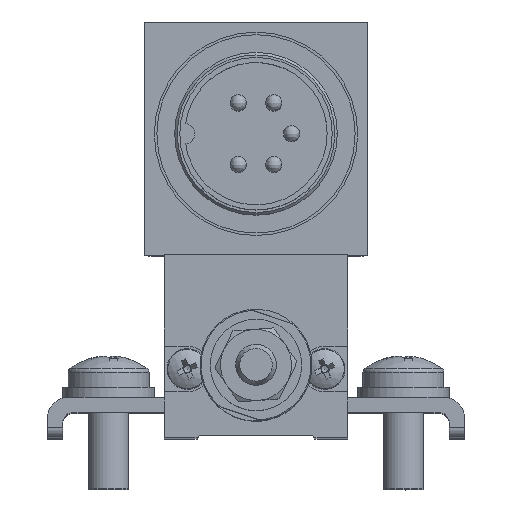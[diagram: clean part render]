
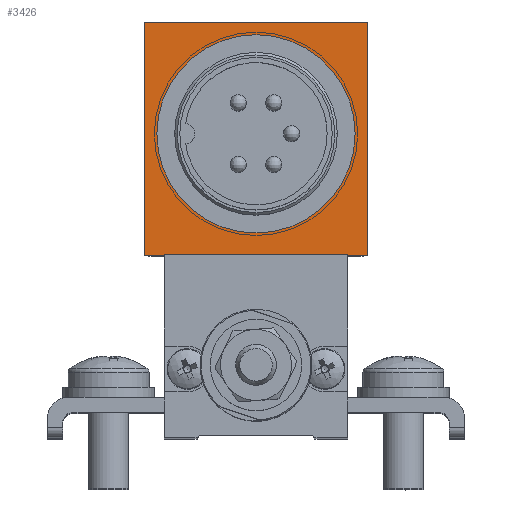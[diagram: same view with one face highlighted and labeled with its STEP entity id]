
A CAD part, top view. The second image highlights one B-rep face of the part: STEP entity #3426.
In plain terms, the highlighted planar face has unit normal (0, 0, 1) as drawn and (0, 0, -1) by its records, which use the part's own axes.
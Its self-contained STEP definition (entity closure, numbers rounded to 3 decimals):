
#34 = ORIENTED_EDGE ( 'NONE', *, *, #6945, .F. ) ;
#116 = CARTESIAN_POINT ( 'NONE',  ( -10.945, 9., -23. ) ) ;
#135 = PLANE ( 'NONE',  #9263 ) ;
#456 = EDGE_CURVE ( 'NONE', #878, #3160, #5418, .T. ) ;
#465 = CARTESIAN_POINT ( 'NONE',  ( 10.945, 9., -23. ) ) ;
#712 = VERTEX_POINT ( 'NONE', #465 ) ;
#869 = VERTEX_POINT ( 'NONE', #3879 ) ;
#878 = VERTEX_POINT ( 'NONE', #116 ) ;
#899 = AXIS2_PLACEMENT_3D ( 'NONE', #1284, #5043, #4297 ) ;
#1122 = ORIENTED_EDGE ( 'NONE', *, *, #456, .T. ) ;
#1284 = CARTESIAN_POINT ( 'NONE',  ( 0., 21., -23. ) ) ;
#1509 = EDGE_CURVE ( 'NONE', #712, #878, #7120, .T. ) ;
#1592 = VECTOR ( 'NONE', #6434, 1000. ) ;
#2122 = FACE_BOUND ( 'NONE', #3589, .T. ) ;
#2514 = VECTOR ( 'NONE', #4706, 1000. ) ;
#2734 = EDGE_CURVE ( 'NONE', #4324, #712, #9285, .T. ) ;
#2866 = CARTESIAN_POINT ( 'NONE',  ( -11., 32., -23. ) ) ;
#3160 = VERTEX_POINT ( 'NONE', #2866 ) ;
#3212 = ORIENTED_EDGE ( 'NONE', *, *, #10076, .F. ) ;
#3342 = VECTOR ( 'NONE', #4967, 1000. ) ;
#3426 = ADVANCED_FACE ( 'NONE', ( #2122, #9507 ), #135, .F. ) ;
#3589 = EDGE_LOOP ( 'NONE', ( #3212 ) ) ;
#3879 = CARTESIAN_POINT ( 'NONE',  ( -9.75, 21., -23. ) ) ;
#4297 = DIRECTION ( 'NONE',  ( -1., 0., 0. ) ) ;
#4324 = VERTEX_POINT ( 'NONE', #7446 ) ;
#4631 = ORIENTED_EDGE ( 'NONE', *, *, #2734, .T. ) ;
#4706 = DIRECTION ( 'NONE',  ( -1., 0., 0. ) ) ;
#4720 = LINE ( 'NONE', #8694, #2514 ) ;
#4967 = DIRECTION ( 'NONE',  ( -0.002, 1., 0. ) ) ;
#5042 = CIRCLE ( 'NONE', #899, 9.75 ) ;
#5043 = DIRECTION ( 'NONE',  ( 0., 0., -1. ) ) ;
#5418 = LINE ( 'NONE', #7282, #3342 ) ;
#5661 = DIRECTION ( 'NONE',  ( -0.002, -1., 0. ) ) ;
#6300 = VECTOR ( 'NONE', #5661, 1000. ) ;
#6434 = DIRECTION ( 'NONE',  ( -1., 0., 0. ) ) ;
#6671 = ORIENTED_EDGE ( 'NONE', *, *, #1509, .T. ) ;
#6711 = EDGE_LOOP ( 'NONE', ( #6671, #1122, #34, #4631 ) ) ;
#6945 = EDGE_CURVE ( 'NONE', #4324, #3160, #4720, .T. ) ;
#7120 = LINE ( 'NONE', #9652, #1592 ) ;
#7226 = DIRECTION ( 'NONE',  ( 0., 0., 1. ) ) ;
#7282 = CARTESIAN_POINT ( 'NONE',  ( -10.945, 8.947, -23. ) ) ;
#7446 = CARTESIAN_POINT ( 'NONE',  ( 11., 32., -23. ) ) ;
#7942 = CARTESIAN_POINT ( 'NONE',  ( 10.945, 9., -23. ) ) ;
#8694 = CARTESIAN_POINT ( 'NONE',  ( 11., 32., -23. ) ) ;
#8810 = CARTESIAN_POINT ( 'NONE',  ( 11., 9., -23. ) ) ;
#9263 = AXIS2_PLACEMENT_3D ( 'NONE', #8810, #7226, #9548 ) ;
#9285 = LINE ( 'NONE', #7942, #6300 ) ;
#9507 = FACE_OUTER_BOUND ( 'NONE', #6711, .T. ) ;
#9548 = DIRECTION ( 'NONE',  ( 0., -1., 0. ) ) ;
#9652 = CARTESIAN_POINT ( 'NONE',  ( 11., 9., -23. ) ) ;
#10076 = EDGE_CURVE ( 'NONE', #869, #869, #5042, .T. ) ;
